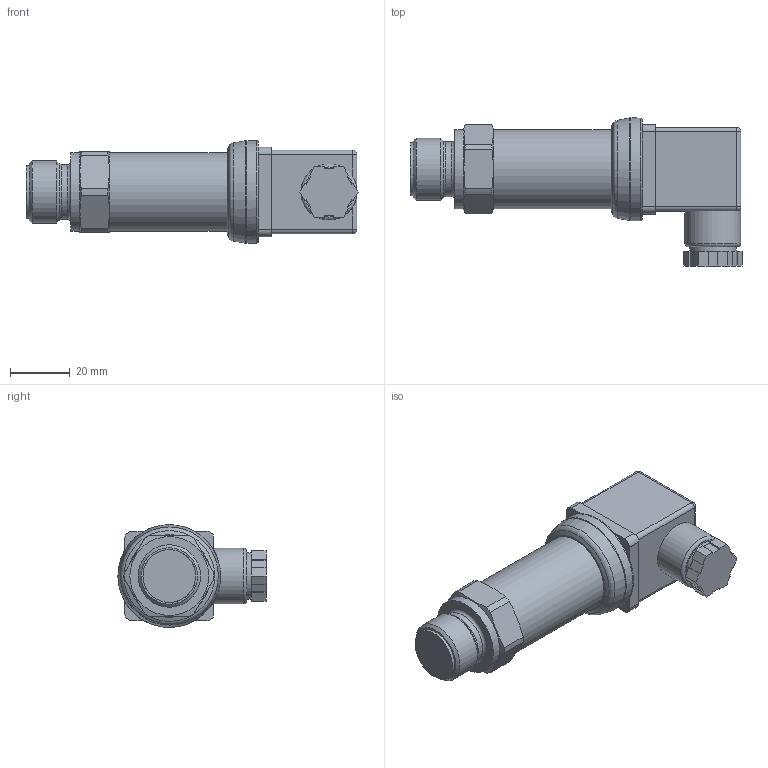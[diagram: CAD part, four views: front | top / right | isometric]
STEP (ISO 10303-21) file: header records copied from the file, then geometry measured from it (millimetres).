
FILE_DESCRIPTION(/* description */ (''),/* implementation_level */ '2;1');
FILE_NAME(/* name */ 'C:\Users\cz1166\Documents\STEP\DMP331P-50x-xxxx-x-x-100-Z00-1-0-x-100.stp',/* time_stamp */ '2020-04-20T10:46:14+02:00',/* author */ ('cz1166'),/* organization */ (''),/* preprocessor_version */ 'ST-DEVELOPER v16.5',/* originating_system */ 'Autodesk Inventor 2017',/* authorisation */ '');
FILE_SCHEMA (('AUTOMOTIVE_DESIGN { 1 0 10303 214 3 1 1 }'));
Length unit declared in the file: millimetre
Products named in the file (1): DMP331P-50x-xxxx-x-x-100-Z00-1-0-x-100
Bounding box: 111.49 x 49.75 x 34.5 mm (x, y, z)
Volume: 74853.6 mm3; surface area: 13256.6 mm2
Topology: 1 solids, 1 shells, 105 faces, 262 edges, 161 vertices
Faces by surface type: plane 61, cylinder 27, torus 7, cone 6, sphere 4
Full cylindrical faces by diameter (mm): 15.7 x1, 17.7 x1, 18.4 x1, 18.8 x1, 20.955 x1, 26.5 x2, 34.5 x1
Entity records: 3043 total; most frequent: CARTESIAN_POINT 526, DIRECTION 498, ORIENTED_EDGE 462, EDGE_CURVE 231, AXIS2_PLACEMENT_3D 175, VERTEX_POINT 155, LINE 148, VECTOR 148
